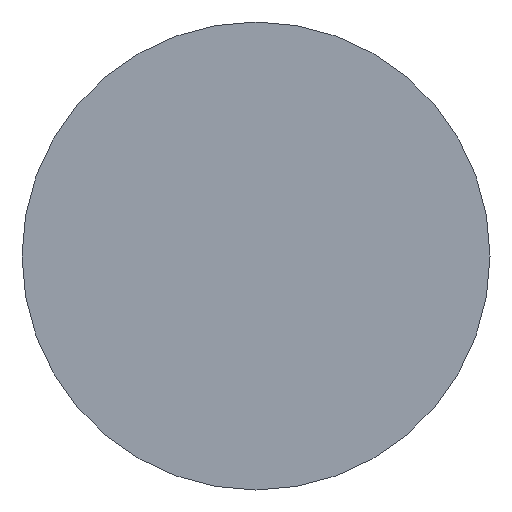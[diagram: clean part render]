
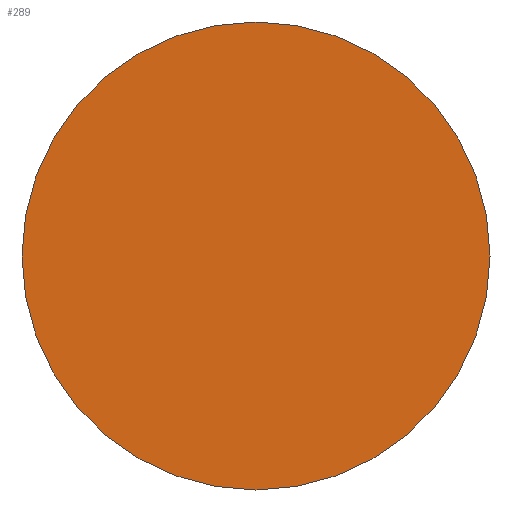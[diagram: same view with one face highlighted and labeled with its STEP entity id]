
A CAD part, left-side view. The second image highlights one B-rep face of the part: STEP entity #289.
In plain terms, the highlighted planar face has unit normal (-1, 0, 0).
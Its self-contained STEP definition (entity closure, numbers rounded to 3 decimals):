
#9 = ORIENTED_EDGE ( 'NONE', *, *, #171, .T. ) ;
#20 = VERTEX_POINT ( 'NONE', #267 ) ;
#46 = CARTESIAN_POINT ( 'NONE',  ( 0., 0., 0. ) ) ;
#48 = DIRECTION ( 'NONE',  ( -1., 0., 0. ) ) ;
#63 = DIRECTION ( 'NONE',  ( -1., 0., 0. ) ) ;
#88 = CARTESIAN_POINT ( 'NONE',  ( 0., 0., 0. ) ) ;
#92 = CARTESIAN_POINT ( 'NONE',  ( 0., 0., 2. ) ) ;
#109 = DIRECTION ( 'NONE',  ( 0., 0., 1. ) ) ;
#132 = CARTESIAN_POINT ( 'NONE',  ( 0., 0., 0. ) ) ;
#137 = AXIS2_PLACEMENT_3D ( 'NONE', #132, #189, #202 ) ;
#143 = PLANE ( 'NONE',  #137 ) ;
#148 = VERTEX_POINT ( 'NONE', #92 ) ;
#156 = ORIENTED_EDGE ( 'NONE', *, *, #283, .T. ) ;
#160 = AXIS2_PLACEMENT_3D ( 'NONE', #88, #63, #188 ) ;
#171 = EDGE_CURVE ( 'NONE', #20, #148, #287, .T. ) ;
#188 = DIRECTION ( 'NONE',  ( 0., 0., 1. ) ) ;
#189 = DIRECTION ( 'NONE',  ( 1., 0., 0. ) ) ;
#200 = AXIS2_PLACEMENT_3D ( 'NONE', #46, #48, #109 ) ;
#202 = DIRECTION ( 'NONE',  ( 0., 0., -1. ) ) ;
#241 = FACE_OUTER_BOUND ( 'NONE', #250, .T. ) ;
#250 = EDGE_LOOP ( 'NONE', ( #156, #9 ) ) ;
#267 = CARTESIAN_POINT ( 'NONE',  ( 0., 0., -2. ) ) ;
#273 = CIRCLE ( 'NONE', #160, 2. ) ;
#283 = EDGE_CURVE ( 'NONE', #148, #20, #273, .T. ) ;
#287 = CIRCLE ( 'NONE', #200, 2. ) ;
#289 = ADVANCED_FACE ( 'NONE', ( #241 ), #143, .F. ) ;
